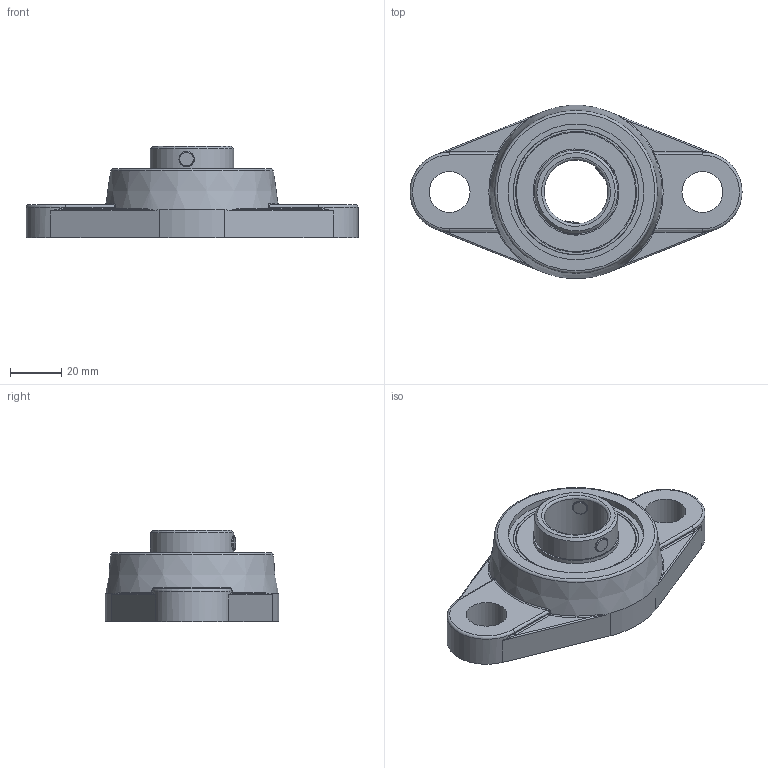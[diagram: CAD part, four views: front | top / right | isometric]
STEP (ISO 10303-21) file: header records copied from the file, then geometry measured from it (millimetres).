
FILE_DESCRIPTION(/* description */ (''),/* implementation_level */ '2;1');
FILE_NAME(/* name */ 'C:\MOJE SUBORY\03_Doplnenie 3D modelov\fmc\FMC205.stp',/* time_stamp */ '2020-12-10T14:13:55+01:00',/* author */ ('OUPIONTEKM'),/* organization */ (''),/* preprocessor_version */ 'ST-DEVELOPER v18.1',/* originating_system */ 'Autodesk Inventor 2021',/* authorisation */ '');
FILE_SCHEMA (('AUTOMOTIVE_DESIGN { 1 0 10303 214 3 1 1 }'));
Length unit declared in the file: millimetre
Products named in the file (10): FMC205; FM205; UC205; UC205-02; UC205-ball; UC205-01; UC205-cage; UC205-seal; M6X5; UC205-shield
Assembly tree (20 placements, depth 3):
  FMC205
    FM205
    UC205
      UC205-02
      UC205-ball  x8
      UC205-01
      UC205-cage  x2
      UC205-seal  x2
      M6X5  x2
      UC205-shield  x2
Bounding box: 130 x 67.8 x 35.8 mm (x, y, z)
Volume: 83432 mm3; surface area: 45210.6 mm2
Topology: 19 solids, 19 shells, 218 faces, 648 edges, 416 vertices
Faces by surface type: plane 79, cylinder 51, sphere 47, torus 17, bspline 16, cone 8
Full cylindrical faces by diameter (mm): 1.8 x2, 6 x4, 16 x2, 25 x1, 32.666 x6, 33.666 x2, 36 x2, 41 x2, 44.334 x2, 46.734 x2, 47.334 x4, 53.143 x1, 54.657 x1
Entity records: 8969 total; most frequent: CARTESIAN_POINT 4445, DIRECTION 935, ORIENTED_EDGE 862, EDGE_CURVE 431, AXIS2_PLACEMENT_3D 424, VERTEX_POINT 288, CIRCLE 248, EDGE_LOOP 189
